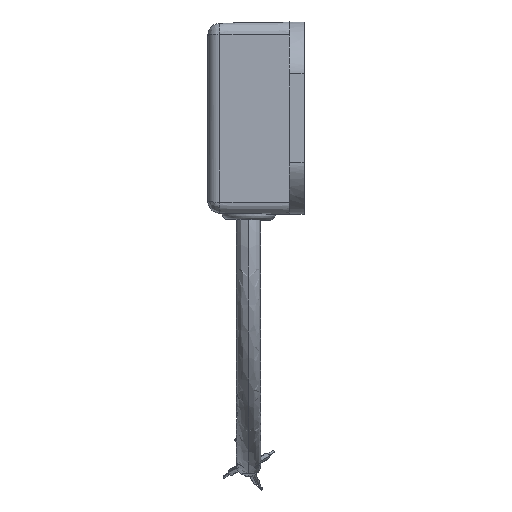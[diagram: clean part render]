
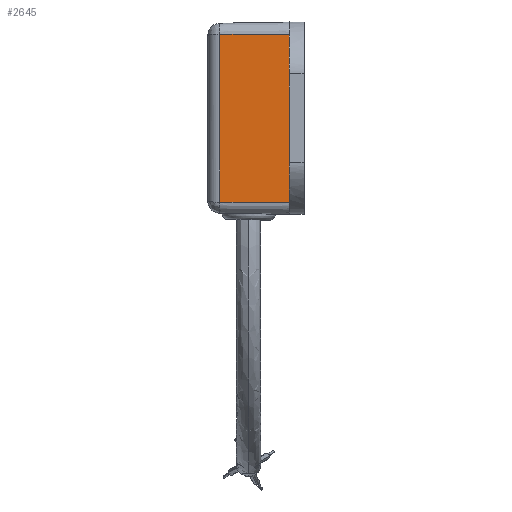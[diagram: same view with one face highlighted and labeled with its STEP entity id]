
A CAD part, left-side view. The second image highlights one B-rep face of the part: STEP entity #2645.
In plain terms, the highlighted planar face has unit normal (-1, 0.018, 0).
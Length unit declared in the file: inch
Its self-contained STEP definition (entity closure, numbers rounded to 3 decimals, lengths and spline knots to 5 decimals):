
#473 = VECTOR ( 'NONE', #11966, 39.37008 ) ;
#589 = LINE ( 'NONE', #9357, #473 ) ;
#948 = DIRECTION ( 'NONE',  ( -0.017, -1., 0. ) ) ;
#2053 = EDGE_CURVE ( 'NONE', #3760, #15557, #12622, .T. ) ;
#2645 = ADVANCED_FACE ( 'NONE', ( #14150 ), #4651, .T. ) ;
#2735 = CARTESIAN_POINT ( 'NONE',  ( -0.77507, 0.68915, -0.6874 ) ) ;
#3087 = VECTOR ( 'NONE', #948, 39.37008 ) ;
#3147 = ORIENTED_EDGE ( 'NONE', *, *, #16222, .F. ) ;
#3760 = VERTEX_POINT ( 'NONE', #9566 ) ;
#4651 = PLANE ( 'NONE',  #9529 ) ;
#6655 = VECTOR ( 'NONE', #15228, 39.37008 ) ;
#7031 = DIRECTION ( 'NONE',  ( -1., 0.017, 0. ) ) ;
#7637 = VERTEX_POINT ( 'NONE', #12123 ) ;
#7669 = CARTESIAN_POINT ( 'NONE',  ( -0.785, 0.12, 0.6874 ) ) ;
#8110 = EDGE_LOOP ( 'NONE', ( #3147, #11880, #14317, #9404 ) ) ;
#8404 = DIRECTION ( 'NONE',  ( -0.017, -1., 0. ) ) ;
#8640 = CARTESIAN_POINT ( 'NONE',  ( -0.785, 0.12, 0.6874 ) ) ;
#8710 = LINE ( 'NONE', #7669, #3087 ) ;
#8880 = CARTESIAN_POINT ( 'NONE',  ( -0.785, 0.12, 0. ) ) ;
#9357 = CARTESIAN_POINT ( 'NONE',  ( -0.785, 0.12, -0.6874 ) ) ;
#9404 = ORIENTED_EDGE ( 'NONE', *, *, #16643, .T. ) ;
#9529 = AXIS2_PLACEMENT_3D ( 'NONE', #8880, #7031, #8404 ) ;
#9566 = CARTESIAN_POINT ( 'NONE',  ( -0.77507, 0.68915, 0.6874 ) ) ;
#9634 = CARTESIAN_POINT ( 'NONE',  ( -0.785, 0.12, 0.6874 ) ) ;
#10238 = VERTEX_POINT ( 'NONE', #9634 ) ;
#11880 = ORIENTED_EDGE ( 'NONE', *, *, #2053, .T. ) ;
#11966 = DIRECTION ( 'NONE',  ( -0.017, -1., 0. ) ) ;
#12123 = CARTESIAN_POINT ( 'NONE',  ( -0.785, 0.12, -0.6874 ) ) ;
#12476 = DIRECTION ( 'NONE',  ( 0., 0., 1. ) ) ;
#12622 = LINE ( 'NONE', #12968, #6655 ) ;
#12878 = EDGE_CURVE ( 'NONE', #15557, #7637, #589, .T. ) ;
#12968 = CARTESIAN_POINT ( 'NONE',  ( -0.77507, 0.68915, -0.6874 ) ) ;
#14150 = FACE_OUTER_BOUND ( 'NONE', #8110, .T. ) ;
#14317 = ORIENTED_EDGE ( 'NONE', *, *, #12878, .T. ) ;
#15228 = DIRECTION ( 'NONE',  ( 0., 0., -1. ) ) ;
#15270 = LINE ( 'NONE', #8640, #15489 ) ;
#15489 = VECTOR ( 'NONE', #12476, 39.37008 ) ;
#15557 = VERTEX_POINT ( 'NONE', #2735 ) ;
#16222 = EDGE_CURVE ( 'NONE', #3760, #10238, #8710, .T. ) ;
#16643 = EDGE_CURVE ( 'NONE', #7637, #10238, #15270, .T. ) ;
